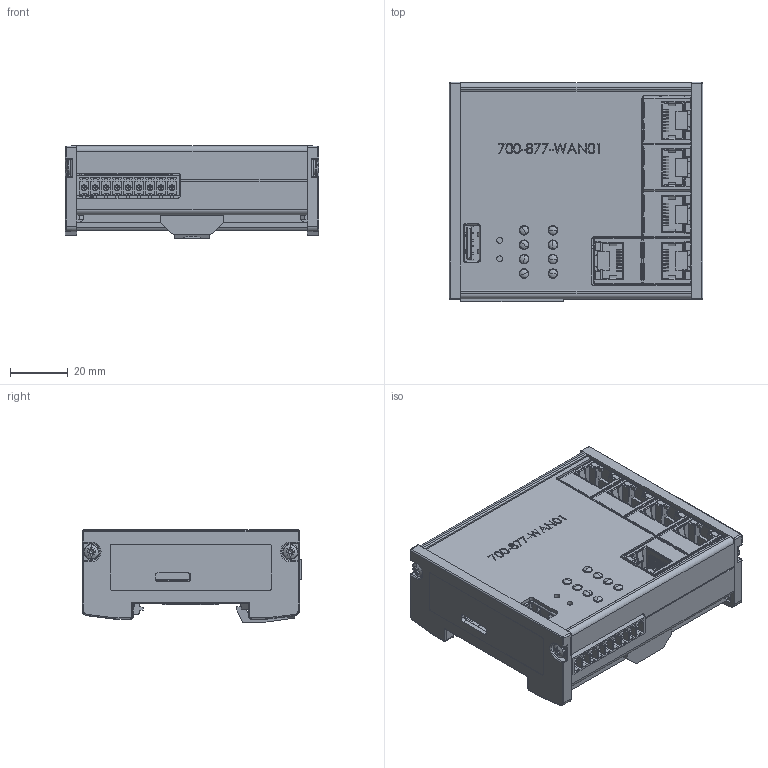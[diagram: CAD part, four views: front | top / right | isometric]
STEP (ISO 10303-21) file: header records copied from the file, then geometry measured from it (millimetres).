
FILE_DESCRIPTION (( 'STEP AP214' ), '1' );
FILE_NAME ('700-877-WAN01_V00-01.STEP', '2018-12-11T09:22:32', ( '' ), ( '' ), 'SwSTEP 2.0', 'SolidWorks 2018', '' );
FILE_SCHEMA (( 'AUTOMOTIVE_DESIGN' ));
Length unit declared in the file: millimetre
Products named in the file (45): m-k30x08-bj V 00-10; PLP2-xxx V00-11; 6917013400xxB_PIN; 691701340009B (rev1); ps-alu-202_V00-03; 700-877-WAN01_V00-01; g-alu-002 V00-00; Dummy_RJ45; g-alu-085 V 00-01_cutout for 3.81 grid; C-1734366-005; g-alu-001 V01-02; 09; g-alu-0xx_V00-00_SD-Card; ps-alu-202_V00-03_LTE; SchraubefürHutschienenclip; PLP2-xxx V00-11_PLP2-125; g-alu-085 V 00-01
Assembly tree (32 placements, depth 3):
  m-k30x08-bj V 00-10
  PLP2-xxx V00-11
  m-k30x08-bj V 00-10
  6917013400xxB_PIN
  6917013400xxB_PIN
Bounding box: 88 x 76.2 x 31.98 mm (x, y, z)
Volume: 59862.7 mm3; surface area: 80950.5 mm2
Topology: 47 solids, 47 shells, 5746 faces, 15425 edges, 9920 vertices
Faces by surface type: plane 3960, cylinder 1075, bspline 380, cone 148, torus 101, sphere 82
Entity records: 216190 total; most frequent: CARTESIAN_POINT 46181, ORIENTED_EDGE 27984, DIRECTION 24776, EDGE_CURVE 13992, LINE 10422, VECTOR 10422, VERTEX_POINT 9060, AXIS2_PLACEMENT_3D 7177
